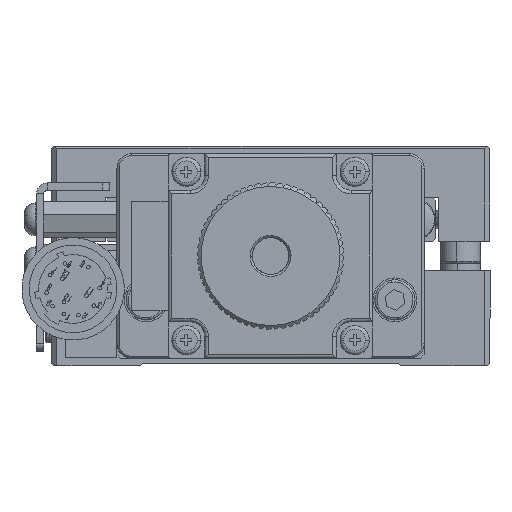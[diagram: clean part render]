
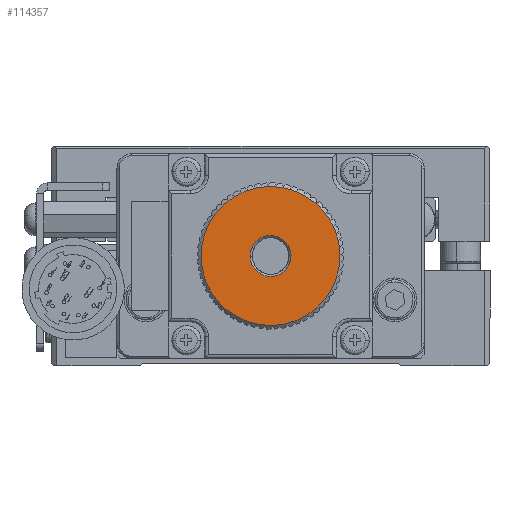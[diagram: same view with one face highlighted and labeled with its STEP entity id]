
A CAD part, front view. The second image highlights one B-rep face of the part: STEP entity #114357.
In plain terms, the highlighted planar face has unit normal (0, -1, 0).
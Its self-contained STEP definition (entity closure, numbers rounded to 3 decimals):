
#1195 = CARTESIAN_POINT ( 'NONE',  ( 0., -113., 15. ) ) ;
#11600 = PLANE ( 'NONE',  #112394 ) ;
#11717 = DIRECTION ( 'NONE',  ( -1., 0., -0.024 ) ) ;
#12956 = EDGE_LOOP ( 'NONE', ( #113876, #161973 ) ) ;
#14161 = VERTEX_POINT ( 'NONE', #138087 ) ;
#23319 = FACE_OUTER_BOUND ( 'NONE', #137087, .T. ) ;
#24840 = VERTEX_POINT ( 'NONE', #148979 ) ;
#24943 = DIRECTION ( 'NONE',  ( 0., 1., 0. ) ) ;
#28037 = CARTESIAN_POINT ( 'NONE',  ( 0., -113., 15. ) ) ;
#37389 = DIRECTION ( 'NONE',  ( -1., 0., -0.024 ) ) ;
#48011 = CARTESIAN_POINT ( 'NONE',  ( 2.799, -113., 15.066 ) ) ;
#48357 = DIRECTION ( 'NONE',  ( 0., 1., 0. ) ) ;
#51881 = DIRECTION ( 'NONE',  ( -1., 0., -0.024 ) ) ;
#55660 = AXIS2_PLACEMENT_3D ( 'NONE', #28037, #78669, #154921 ) ;
#63618 = CIRCLE ( 'NONE', #82173, 9.5 ) ;
#76809 = EDGE_CURVE ( 'NONE', #80776, #24840, #99778, .T. ) ;
#78669 = DIRECTION ( 'NONE',  ( 0., -1., 0. ) ) ;
#80776 = VERTEX_POINT ( 'NONE', #48011 ) ;
#81487 = AXIS2_PLACEMENT_3D ( 'NONE', #1195, #126512, #51881 ) ;
#82173 = AXIS2_PLACEMENT_3D ( 'NONE', #119750, #93954, #144546 ) ;
#82993 = EDGE_CURVE ( 'NONE', #154986, #14161, #63618, .T. ) ;
#83559 = EDGE_CURVE ( 'NONE', #14161, #154986, #98347, .T. ) ;
#93954 = DIRECTION ( 'NONE',  ( 0., -1., 0. ) ) ;
#98347 = CIRCLE ( 'NONE', #55660, 9.5 ) ;
#99778 = CIRCLE ( 'NONE', #147457, 2.8 ) ;
#102042 = CARTESIAN_POINT ( 'NONE',  ( 0., -113., 15. ) ) ;
#112394 = AXIS2_PLACEMENT_3D ( 'NONE', #102042, #24943, #37389 ) ;
#113406 = ORIENTED_EDGE ( 'NONE', *, *, #83559, .T. ) ;
#113876 = ORIENTED_EDGE ( 'NONE', *, *, #76809, .T. ) ;
#114357 = ADVANCED_FACE ( 'NONE', ( #136909, #23319 ), #11600, .F. ) ;
#116038 = CARTESIAN_POINT ( 'NONE',  ( 9.497, -113., 15.224 ) ) ;
#119750 = CARTESIAN_POINT ( 'NONE',  ( 0., -113., 15. ) ) ;
#126512 = DIRECTION ( 'NONE',  ( 0., 1., 0. ) ) ;
#127699 = ORIENTED_EDGE ( 'NONE', *, *, #82993, .T. ) ;
#134564 = CIRCLE ( 'NONE', #81487, 2.8 ) ;
#136909 = FACE_BOUND ( 'NONE', #12956, .T. ) ;
#137087 = EDGE_LOOP ( 'NONE', ( #113406, #127699 ) ) ;
#138087 = CARTESIAN_POINT ( 'NONE',  ( -9.497, -113., 14.776 ) ) ;
#143119 = EDGE_CURVE ( 'NONE', #24840, #80776, #134564, .T. ) ;
#144546 = DIRECTION ( 'NONE',  ( -1., 0., -0.024 ) ) ;
#147457 = AXIS2_PLACEMENT_3D ( 'NONE', #161907, #48357, #11717 ) ;
#148979 = CARTESIAN_POINT ( 'NONE',  ( -2.799, -113., 14.934 ) ) ;
#154921 = DIRECTION ( 'NONE',  ( -1., 0., -0.024 ) ) ;
#154986 = VERTEX_POINT ( 'NONE', #116038 ) ;
#161907 = CARTESIAN_POINT ( 'NONE',  ( 0., -113., 15. ) ) ;
#161973 = ORIENTED_EDGE ( 'NONE', *, *, #143119, .T. ) ;
